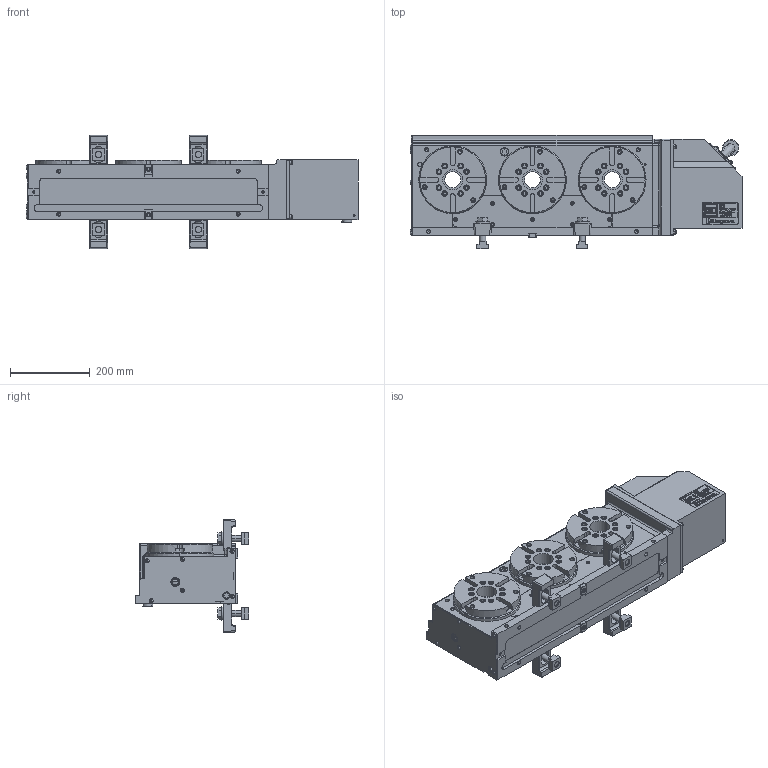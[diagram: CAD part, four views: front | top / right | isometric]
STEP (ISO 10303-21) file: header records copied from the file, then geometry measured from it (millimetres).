
FILE_DESCRIPTION (( 'STEP AP214' ), '1' );
FILE_NAME ('21-07-30_TM3160AV.STEP', '2021-07-29T23:23:55', ( '' ), ( '' ), 'SwSTEP 2.0', 'SolidWorks 2020', '' );
FILE_SCHEMA (( 'AUTOMOTIVE_DESIGN' ));
Length unit declared in the file: millimetre
Products named in the file (14): 僊儎儃僢僋僗PAD(61E2650180)TM3160A00; 働乕僽儖N29ZSZ2562; キタガワシール; TM3160AVホンタイ; モータケース(61E2828890)TM2160AV00; 僠僃僢僋僶儖僽丂CVR01-A-10W; ホンタイTM3160; CLAMPING PARTS(61E424758)結合; オイルゲージ 207; 21-07-30_TM3160AV; テーブルT溝160; ガイドブロック(61M4197783); TM3160A00僋儈僞僥(61E109680); 僄傾僋儔儞僾PAD(61E3602316)TM2160
Assembly tree (21 placements, depth 4):
  21-07-30_TM3160AV
    TM3160AVホンタイ
      TM3160A00僋儈僞僥(61E109680)
        ホンタイTM3160
        テーブルT溝160  x3
        僄傾僋儔儞僾PAD(61E3602316)TM2160  x3
        僊儎儃僢僋僗PAD(61E2650180)TM3160A00
        オイルゲージ 207
        僠僃僢僋僶儖僽丂CVR01-A-10W
      ガイドブロック(61M4197783)  x2
      モータケース(61E2828890)TM2160AV00
      働乕僽儖N29ZSZ2562
      キタガワシール
    CLAMPING PARTS(61E424758)結合  x4
Bounding box: 832.5 x 285 x 284 mm (x, y, z)
Volume: 25088927.8 mm3; surface area: 1616552.7 mm2
Topology: 19 solids, 19 shells, 3677 faces, 9456 edges, 6136 vertices
Faces by surface type: plane 2489, cylinder 867, cone 249, torus 48, bspline 17, sphere 7
Entity records: 99224 total; most frequent: CARTESIAN_POINT 16190, ORIENTED_EDGE 14980, DIRECTION 14674, EDGE_CURVE 7490, VECTOR 6010, LINE 6010, VERTEX_POINT 4930, AXIS2_PLACEMENT_3D 4332
